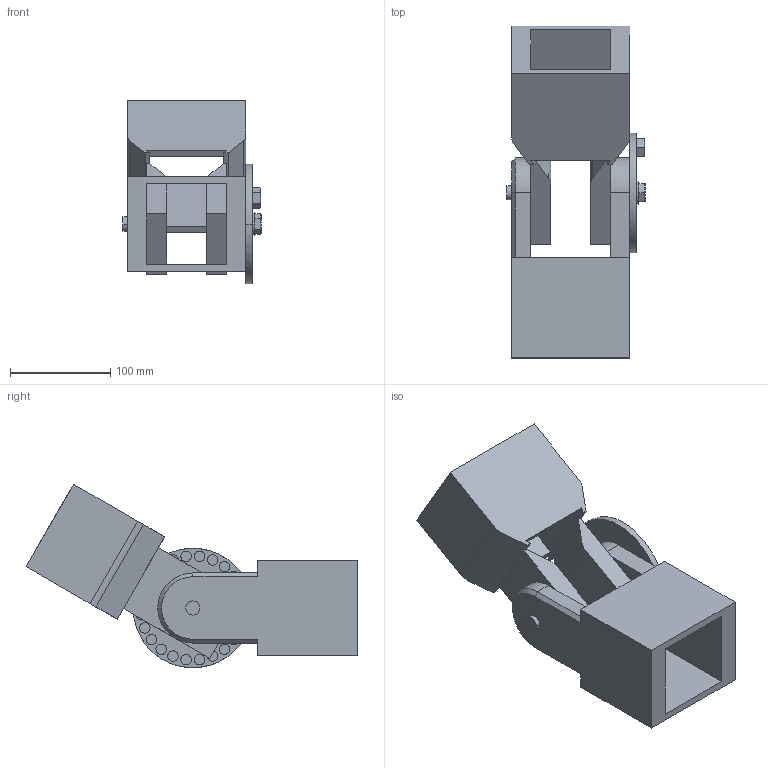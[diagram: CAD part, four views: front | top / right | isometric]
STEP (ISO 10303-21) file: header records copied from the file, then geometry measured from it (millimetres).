
FILE_DESCRIPTION((''),'1');
FILE_NAME('2','2001-04-17T',('jlue'),(''),'PRO/ENGINEER BY PARAMETRIC TECHNOLOGY CORPORATION, 9846','PRO/ENGINEER BY PARAMETRIC TECHNOLOGY CORPORATION, 9846','');
FILE_SCHEMA(('CONFIG_CONTROL_DESIGN'));
Length unit declared in the file: inch
Products named in the file (1): 2
Bounding box: 137.98 x 331.61 x 183.34 mm (x, y, z)
Surface area: 238781.2 mm2 (no closed solid volume)
Topology: 0 solids, 0 shells, 156 faces, 778 edges, 802 vertices
Faces by surface type: plane 85, cylinder 52, cone 19
Entity records: 4179 total; most frequent: DIRECTION 824, COMPOSITE_CURVE_SEGMENT 754, CARTESIAN_POINT 751, TRIMMED_CURVE 371, AXIS2_PLACEMENT_3D 297, VECTOR 230, LINE 230, CURVE_BOUNDED_SURFACE 156
